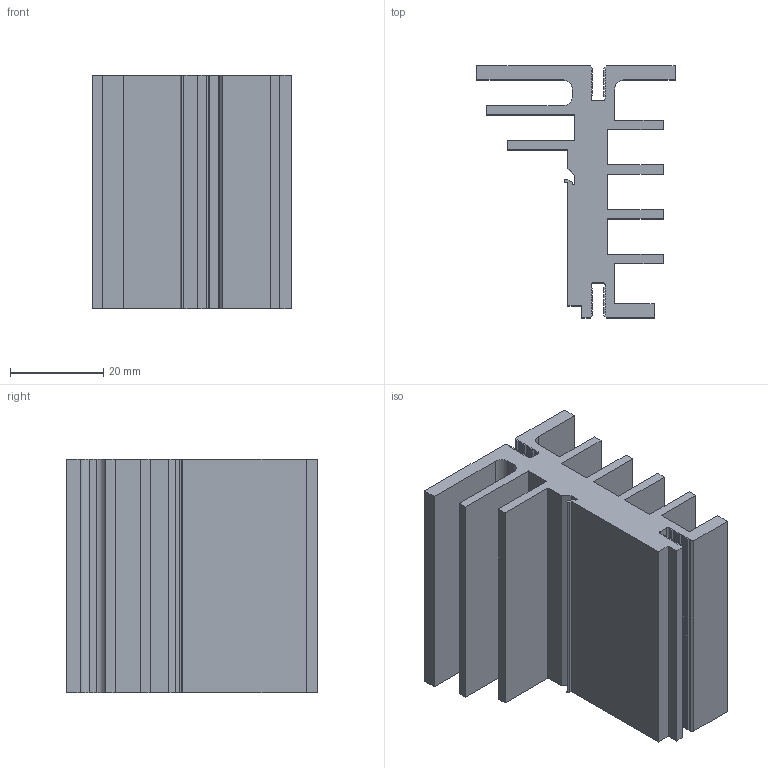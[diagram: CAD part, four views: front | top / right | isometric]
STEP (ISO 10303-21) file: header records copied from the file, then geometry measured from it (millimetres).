
FILE_DESCRIPTION (( 'STEP AP203' ), '1' );
FILE_NAME ('PR 119-50.step', '2002-10-20T23:17:48', ( 'Wolfgang Müller' ), ( 'DPS' ), 'SwSTEP 2.0', 'SolidWorks 2002264', '' );
FILE_SCHEMA (( 'CONFIG_CONTROL_DESIGN' ));
Length unit declared in the file: millimetre
Products named in the file (1): PR 119-50
Bounding box: 42.5 x 54 x 50 mm (x, y, z)
Volume: 35561.9 mm3; surface area: 22643.9 mm2
Topology: 1 solids, 1 shells, 206 faces, 612 edges, 408 vertices
Faces by surface type: plane 197, cylinder 9
Entity records: 6851 total; most frequent: CARTESIAN_POINT 1227, ORIENTED_EDGE 1224, DIRECTION 1044, EDGE_CURVE 612, LINE 594, VECTOR 594, VERTEX_POINT 408, AXIS2_PLACEMENT_3D 225
